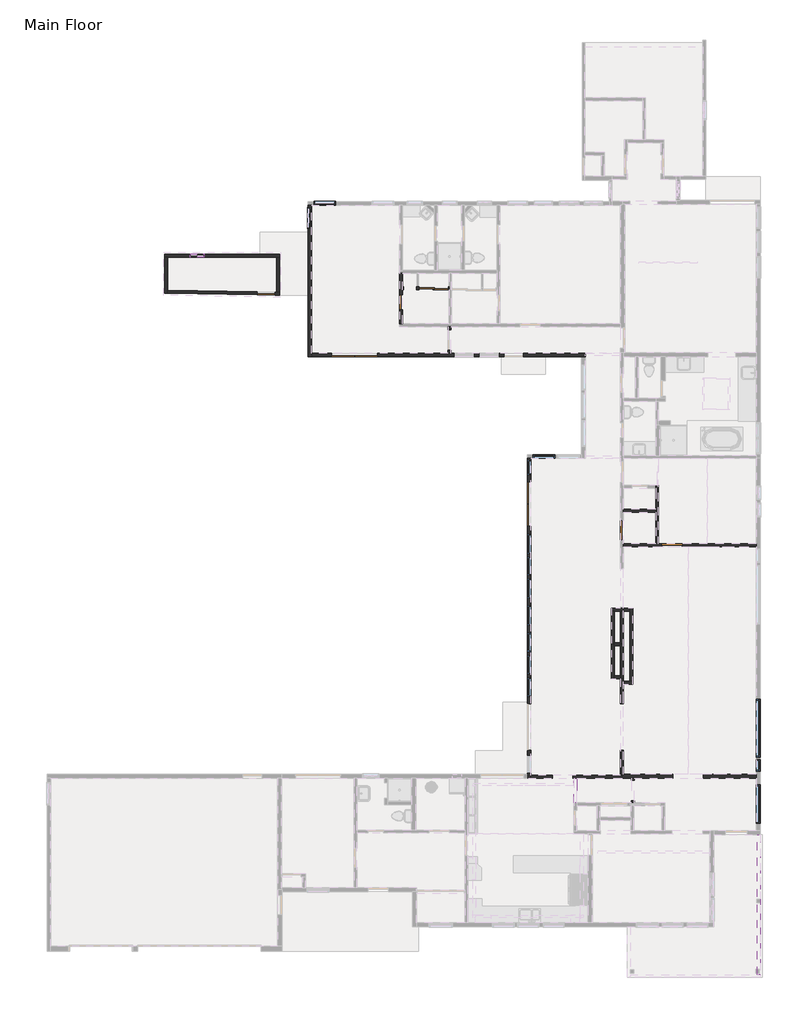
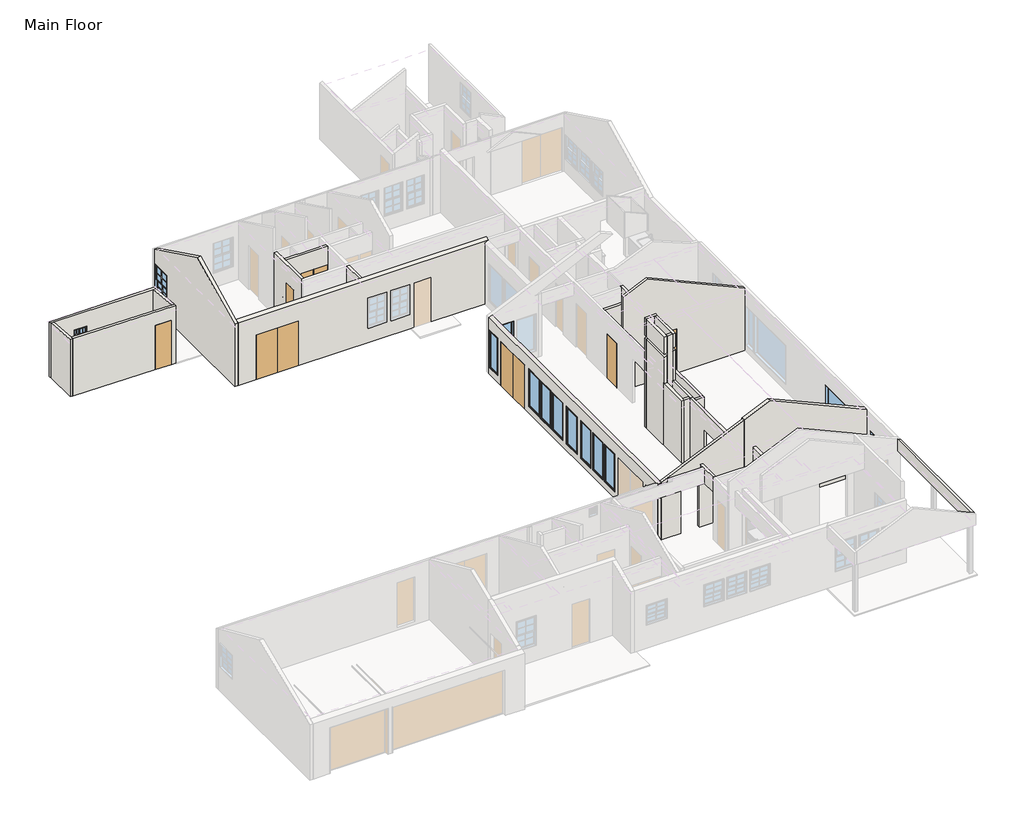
# One storey, part 3 of 7: 29 walls, 15 windows, 7 doors.
"""IFC4 building model written with IfcOpenShell, lengths in millimetres."""

from ifc_helpers import new_model, si_unit, frame, origin, origin_with_axes, place, context, project, spatial, polyline, outline, extrude, faceted_brep, transform, mapped, element, save
from components import door_b2eef15f, door_faf8bfec, door_aa45f35f, door_ba797397, door_69ba4edc, door_1b11d0cb, door_5ce24313, default_1_c23df90b, default_1_2afedee8, default_1_493c007d, default_1_76f3aa2d, default_1_f9e0bd6c, default_1_eb8dff72, default_1_3f986f1e, default_1_c4137e32, default_1_00e0ac36, default_1_38690279

model = new_model("IFC4")

# Units and contexts
model_context = context("Model", 3, world=origin())
ifc_project = project(units=[si_unit("LENGTHUNIT", "METRE", prefix="MILLI")], contexts=[model_context])

# Site, building, storey
site = spatial("IfcSite", under=ifc_project)
building = spatial("IfcBuilding", under=site)
storey = spatial("IfcBuildingStorey", under=building, Name="Main Floor", Elevation=0.0)

# Doors
placement = place(None, origin())
door_shape = door_b2eef15f(model_context)
element("IfcDoor", 1, ObjectType="Planitar - Single Door_Flush Panel : 2'-0\" x 6'-8\"", at=placement, inside=storey, context=model_context, shape_type="MappedRepresentation", body=[
    mapped(door_shape, transform((2244.5343008, 15372.7752932, 0.0), x_axis=(0.0, -1.0, 0.0), y_axis=(1.0, 0.0, 0.0), z_axis=(0.0, 0.0, 1.0))),
])
door_2_shape = door_faf8bfec(model_context)
element("IfcDoor", 2, ObjectType="Planitar - Single Door_Flush Panel : 2'-4\" x 6'-8\"", at=placement, inside=storey, context=model_context, shape_type="MappedRepresentation", body=[
    mapped(door_2_shape, transform((-3111.2605898, 15715.9165348, 0.0), x_axis=(-0.9998476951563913, 0.017452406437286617, 0.0), y_axis=(-0.017452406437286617, -0.9998476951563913, 0.0), z_axis=(0.0, 0.0, 1.0))),
])
door_3_shape = door_aa45f35f(model_context)
element("IfcDoor", 3, ObjectType="Planitar - Single Door_Flush Panel : 2'-6\" x 6'-8\"", at=placement, inside=storey, context=model_context, shape_type="MappedRepresentation", body=[
    mapped(door_3_shape, transform((10994.8343008, 6343.4467932, 0.0), x_axis=(0.0, 1.0, 0.0), y_axis=(-1.0, 0.0, 0.0), z_axis=(0.0, 0.0, 1.0))),
])
door_4_shape = door_ba797397(model_context)
element("IfcDoor", 4, ObjectType="Planitar - Single Door_Flush Panel : 2'-8\" x 6'-8\"", at=placement, inside=storey, context=model_context, shape_type="MappedRepresentation", body=[
    mapped(door_4_shape, transform((12985.1655008, 5746.1752932, 0.0), x_axis=(-1.0, 0.0, 0.0), y_axis=(0.0, -1.0, 0.0), z_axis=(0.0, 0.0, 1.0))),
])
door_5_shape = door_69ba4edc(model_context)
element("IfcDoor", 5, ObjectType="Planitar - Double Sliding Door_Flush Panel : 3'-10\" x 6'-8\"", at=placement, inside=storey, context=model_context, shape_type="MappedRepresentation", body=[
    mapped(door_5_shape, transform((3539.9343008, 15922.0502932, 0.0), x_axis=(-1.0, 0.0, 0.0), y_axis=(0.0, -1.0, 0.0), z_axis=(0.0, 0.0, 1.0))),
])
door_6_shape = door_1b11d0cb(model_context)
element("IfcDoor", 6, ObjectType="Planitar - Double Door_Flush Panel : 5'-10\" x 6'-8\"", at=placement, inside=storey, context=model_context, shape_type="MappedRepresentation", body=[
    mapped(door_6_shape, transform((7318.1843008, 7383.5361932, 0.0), x_axis=(0.0, 1.0, 0.0), y_axis=(-1.0, 0.0, 0.0), z_axis=(0.0, 0.0, 1.0))),
])
door_7_shape = door_5ce24313(model_context)
element("IfcDoor", 7, ObjectType="Planitar - Double Door_Flush Panel : 6'-0\" x 6'-8\"", at=placement, inside=storey, context=model_context, shape_type="MappedRepresentation", body=[
    mapped(door_7_shape, transform((402.6442008, 13283.6252932, 0.0), x_axis=(-1.0, 0.0, 0.0), y_axis=(0.0, -1.0, 0.0), z_axis=(0.0, 0.0, 1.0))),
])

# Walls
element("IfcWall", 8, ObjectType="Planitar - Generic 6\"", at=placement, inside=storey, context=model_context, shape_type="Brep", body=[
    faceted_brep([(-1451.1656992, 19214.5252932, 0.0), (-1451.1656992, 13207.4252932, 0.0), (-1451.1656992, 13207.4252932, 2862.721786), (-1451.1656992, 16007.7752932, 4228.5437404), (-1451.1656992, 19214.5252932, 2664.507262), (-1451.1656992, 18274.4062932, 2032.0), (-1451.1656992, 18274.4062932, 660.4), (-1451.1656992, 19138.0062932, 660.4), (-1451.1656992, 19138.0062932, 2032.0), (-1298.7656992, 19214.5252932, 0.0), (-1298.7656992, 19214.5252932, 2664.507262), (-1298.7656992, 16007.7752932, 4228.5437404), (-1298.7656992, 13359.8252932, 2937.0522325), (-1298.7656992, 13207.4252932, 2862.721786), (-1298.7656992, 13207.4252932, 0.0), (-1298.7656992, 13359.8252932, 0.0), (-1298.7656992, 18274.4062932, 2032.0), (-1298.7656992, 19138.0062932, 2032.0), (-1298.7656992, 19138.0062932, 660.4), (-1298.7656992, 18274.4062932, 660.4)], [[[0, 1, 2, 3, 4], [5, 6, 7, 8]], [[9, 10, 11, 12, 13, 14, 15], [16, 17, 18, 19]], [[1, 0, 9, 15, 14]], [[0, 4, 10, 9]], [[2, 1, 14, 13]], [[6, 5, 16, 19]], [[7, 6, 19, 18]], [[8, 7, 18, 17]], [[5, 8, 17, 16]], [[4, 3, 11, 10]], [[3, 2, 13, 12, 11]]]),
])
element("IfcWall", 9, ObjectType="Planitar - Generic 6\"", at=placement, inside=storey, context=model_context, shape_type="Brep", body=[
    faceted_brep([(-1298.7656992, 13207.4252932, 2862.721786), (-1298.7656992, 13207.4252932, 0.0), (-511.7557992, 13207.4252932, 0.0), (-511.7557992, 13207.4252932, 2032.0), (1317.0442008, 13207.4252932, 2032.0), (1317.0442008, 13207.4252932, 0.0), (6320.4028008, 13207.4252932, 0.0), (6320.4028008, 13207.4252932, 2032.0), (7082.4028008, 13207.4252932, 2032.0), (7082.4028008, 13207.4252932, 0.0), (9394.6343008, 13207.4252932, 0.0), (9547.0343008, 13207.4252932, 0.0), (9547.0343008, 13207.4252932, 2862.721786), (5143.6598008, 13207.4252932, 2032.0), (5143.6598008, 13207.4252932, 660.4), (4330.8598008, 13207.4252932, 660.4), (4330.8598008, 13207.4252932, 2032.0), (6134.1196008, 13207.4252932, 2032.0), (6134.1196008, 13207.4252932, 660.4), (5321.3196008, 13207.4252932, 660.4), (5321.3196008, 13207.4252932, 2032.0), (-1298.7656992, 13359.8252932, 0.0), (-1298.7656992, 13359.8252932, 2937.0522325), (9547.0343008, 13359.8252932, 2937.0522325), (9547.0343008, 13359.8252932, 2870.2), (9547.0343008, 13359.8252932, 2311.4), (9547.0343008, 13359.8252932, 0.0), (7082.4028008, 13359.8252932, 0.0), (7082.4028008, 13359.8252932, 2032.0), (6320.4028008, 13359.8252932, 2032.0), (6320.4028008, 13359.8252932, 0.0), (4213.0343008, 13359.8252932, 0.0), (4098.7343008, 13359.8252932, 0.0), (1317.0442008, 13359.8252932, 0.0), (1317.0442008, 13359.8252932, 2032.0), (-511.7557992, 13359.8252932, 2032.0), (-511.7557992, 13359.8252932, 0.0), (5143.6598008, 13359.8252932, 2032.0), (4330.8598008, 13359.8252932, 2032.0), (4330.8598008, 13359.8252932, 660.4), (5143.6598008, 13359.8252932, 660.4), (6134.1196008, 13359.8252932, 2032.0), (5321.3196008, 13359.8252932, 2032.0), (5321.3196008, 13359.8252932, 660.4), (6134.1196008, 13359.8252932, 660.4)], [[[0, 1, 2, 3, 4, 5, 6, 7, 8, 9, 10, 11, 12], [13, 14, 15, 16], [17, 18, 19, 20]], [[21, 22, 23, 24, 25, 26, 27, 28, 29, 30, 31, 32, 33, 34, 35, 36], [37, 38, 39, 40], [41, 42, 43, 44]], [[1, 21, 36, 2]], [[26, 11, 10, 9, 27]], [[30, 6, 5, 33, 32, 31]], [[1, 0, 22, 21]], [[28, 27, 9, 8]], [[29, 28, 8, 7]], [[30, 29, 7, 6]], [[35, 3, 2, 36]], [[3, 35, 34, 4]], [[4, 34, 33, 5]], [[14, 13, 37, 40]], [[15, 14, 40, 39]], [[16, 15, 39, 38]], [[13, 16, 38, 37]], [[18, 17, 41, 44]], [[19, 18, 44, 43]], [[20, 19, 43, 42]], [[17, 20, 42, 41]], [[11, 26, 25, 24, 23, 12]], [[0, 12, 23, 22]]]),
])
element("IfcWall", 10, ObjectType="Planitar - Generic 6\"", at=placement, inside=storey, context=model_context, shape_type="Brep", body=[
    faceted_brep([(7241.9843008, 9187.8752932, 2565.4), (7241.9843008, 9187.8752932, 0.0), (7241.9843008, 8272.5361932, 0.0), (7241.9843008, 8272.5361932, 2032.0), (7241.9843008, 6494.5361932, 2032.0), (7241.9843008, 6494.5361932, 0.0), (7241.9843008, -530.9325068, 0.0), (7241.9843008, -530.9325068, 2032.0), (7241.9843008, -2359.7325068, 2032.0), (7241.9843008, -2359.7325068, 0.0), (7241.9843008, -3327.9747068, 0.0), (7241.9843008, -3480.3747068, 0.0), (7241.9843008, -3480.3747068, 2565.4), (7241.9843008, 8521.0123932, 304.8), (7241.9843008, 9130.6123932, 304.8), (7241.9843008, 9130.6123932, 2032.0), (7241.9843008, 8521.0123932, 2032.0), (7241.9843008, 5386.4863932, 304.8), (7241.9843008, 6199.2863932, 304.8), (7241.9843008, 6199.2863932, 2032.0), (7241.9843008, 5386.4863932, 2032.0), (7241.9843008, 4539.7249932, 304.8), (7241.9843008, 5301.7249932, 304.8), (7241.9843008, 5301.7249932, 2032.0), (7241.9843008, 4539.7249932, 2032.0), (7241.9843008, 3625.3314932, 304.8), (7241.9843008, 4438.1314932, 304.8), (7241.9843008, 4438.1314932, 2032.0), (7241.9843008, 3625.3314932, 2032.0), (7241.9843008, 2555.2350932, 304.8), (7241.9843008, 3368.0350932, 304.8), (7241.9843008, 3368.0350932, 2032.0), (7241.9843008, 2555.2350932, 2032.0), (7241.9843008, 1520.2017932, 304.8), (7241.9843008, 2282.2017932, 304.8), (7241.9843008, 2282.2017932, 2032.0), (7241.9843008, 1520.2017932, 2032.0), (7241.9843008, 634.3252932, 304.8), (7241.9843008, 1396.3252932, 304.8), (7241.9843008, 1396.3252932, 2032.0), (7241.9843008, 634.3252932, 2032.0), (7241.9843008, -253.7331068, 304.8), (7241.9843008, 508.2668932, 304.8), (7241.9843008, 508.2668932, 2032.0), (7241.9843008, -253.7331068, 2032.0), (7241.9843008, -3251.9474068, 304.8), (7241.9843008, -2591.5474068, 304.8), (7241.9843008, -2591.5474068, 2032.0), (7241.9843008, -3251.9474068, 2032.0), (7394.3843008, 9187.8752932, 0.0), (7394.3843008, 9187.8752932, 2633.2528516), (7394.3843008, -3366.0747068, 2633.2528516), (7394.3843008, -3480.3747068, 2633.2528516), (7394.3843008, -3480.3747068, 0.0), (7394.3843008, -3366.0747068, 0.0), (7394.3843008, -2359.7325068, 0.0), (7394.3843008, -2359.7325068, 2032.0), (7394.3843008, -530.9325068, 2032.0), (7394.3843008, -530.9325068, 0.0), (7394.3843008, 6494.5361932, 0.0), (7394.3843008, 6494.5361932, 2032.0), (7394.3843008, 8272.5361932, 2032.0), (7394.3843008, 8272.5361932, 0.0), (7394.3843008, 8521.0123932, 304.8), (7394.3843008, 8521.0123932, 2032.0), (7394.3843008, 9130.6123932, 2032.0), (7394.3843008, 9130.6123932, 304.8), (7394.3843008, 5386.4863932, 304.8), (7394.3843008, 5386.4863932, 2032.0), (7394.3843008, 6199.2863932, 2032.0), (7394.3843008, 6199.2863932, 304.8), (7394.3843008, 4539.7249932, 304.8), (7394.3843008, 4539.7249932, 2032.0), (7394.3843008, 5301.7249932, 2032.0), (7394.3843008, 5301.7249932, 304.8), (7394.3843008, 3625.3314932, 304.8), (7394.3843008, 3625.3314932, 2032.0), (7394.3843008, 4438.1314932, 2032.0), (7394.3843008, 4438.1314932, 304.8), (7394.3843008, 2555.2350932, 304.8), (7394.3843008, 2555.2350932, 2032.0), (7394.3843008, 3368.0350932, 2032.0), (7394.3843008, 3368.0350932, 304.8), (7394.3843008, 1520.2017932, 304.8), (7394.3843008, 1520.2017932, 2032.0), (7394.3843008, 2282.2017932, 2032.0), (7394.3843008, 2282.2017932, 304.8), (7394.3843008, 634.3252932, 304.8), (7394.3843008, 634.3252932, 2032.0), (7394.3843008, 1396.3252932, 2032.0), (7394.3843008, 1396.3252932, 304.8), (7394.3843008, -253.7331068, 304.8), (7394.3843008, -253.7331068, 2032.0), (7394.3843008, 508.2668932, 2032.0), (7394.3843008, 508.2668932, 304.8), (7394.3843008, -3251.9474068, 304.8), (7394.3843008, -3251.9474068, 2032.0), (7394.3843008, -2591.5474068, 2032.0), (7394.3843008, -2591.5474068, 304.8)], [[[0, 1, 2, 3, 4, 5, 6, 7, 8, 9, 10, 11, 12], [13, 14, 15, 16], [17, 18, 19, 20], [21, 22, 23, 24], [25, 26, 27, 28], [29, 30, 31, 32], [33, 34, 35, 36], [37, 38, 39, 40], [41, 42, 43, 44], [45, 46, 47, 48]], [[49, 50, 51, 52, 53, 54, 55, 56, 57, 58, 59, 60, 61, 62], [63, 64, 65, 66], [67, 68, 69, 70], [71, 72, 73, 74], [75, 76, 77, 78], [79, 80, 81, 82], [83, 84, 85, 86], [87, 88, 89, 90], [91, 92, 93, 94], [95, 96, 97, 98]], [[1, 49, 62, 2]], [[53, 11, 10, 9, 55, 54]], [[5, 59, 58, 6]], [[1, 0, 50, 49]], [[12, 11, 53, 52]], [[61, 3, 2, 62]], [[3, 61, 60, 4]], [[4, 60, 59, 5]], [[57, 7, 6, 58]], [[7, 57, 56, 8]], [[8, 56, 55, 9]], [[64, 63, 13, 16]], [[65, 64, 16, 15]], [[66, 65, 15, 14]], [[63, 66, 14, 13]], [[68, 67, 17, 20]], [[69, 68, 20, 19]], [[70, 69, 19, 18]], [[67, 70, 18, 17]], [[72, 71, 21, 24]], [[73, 72, 24, 23]], [[74, 73, 23, 22]], [[71, 74, 22, 21]], [[76, 75, 25, 28]], [[77, 76, 28, 27]], [[78, 77, 27, 26]], [[75, 78, 26, 25]], [[80, 79, 29, 32]], [[81, 80, 32, 31]], [[82, 81, 31, 30]], [[79, 82, 30, 29]], [[84, 83, 33, 36]], [[85, 84, 36, 35]], [[86, 85, 35, 34]], [[83, 86, 34, 33]], [[88, 87, 37, 40]], [[89, 88, 40, 39]], [[90, 89, 39, 38]], [[87, 90, 38, 37]], [[92, 91, 41, 44]], [[93, 92, 44, 43]], [[94, 93, 43, 42]], [[91, 94, 42, 41]], [[96, 95, 45, 48]], [[97, 96, 48, 47]], [[98, 97, 47, 46]], [[95, 98, 46, 45]], [[0, 12, 52, 51, 50]]]),
])
element("IfcWall", 11, ObjectType="Planitar - Generic 4 1/2\"", at=placement, inside=storey, context=model_context, shape_type="SweptSolid", body=[
    extrude(outline(polyline([(-4366.6311068, 2032.0), (-4366.6311068, 0.0), (-4451.9247068, 0.0), (-4451.9247068, 2870.2), (-3480.3747068, 2870.2), (-3480.3747068, 0.0), (-3553.8311068, 0.0), (-3553.8311068, 2032.0), (-4366.6311068, 2032.0)])), frame((11375.8343008, 0.0, 0.0), z_axis=(1.0, 0.0, 0.0), x_axis=(0.0, 1.0, 0.0)), (0.0, 0.0, 1.0), 114.3),
])
element("IfcWall", 12, ObjectType="Planitar - Generic 6 1/2\"", at=placement, inside=storey, context=model_context, shape_type="Brep", body=[
    faceted_brep([(16316.1343008, -3315.2747068, 0.0), (14221.9957008, -3315.2747068, 0.0), (14221.9957008, -3315.2747068, 2032.0), (13002.7957008, -3315.2747068, 2032.0), (13002.7957008, -3315.2747068, 0.0), (11051.9843008, -3315.2747068, 0.0), (10994.8343008, -3315.2747068, 0.0), (10994.8343008, -3315.2747068, 2870.2), (10994.8343008, -3315.2747068, 4236.2764717), (12115.9189869, -3315.2747068, 4735.4155326), (16316.1343008, -3315.2747068, 2865.3591904), (14221.9957008, -3480.3747068, 2032.0), (14221.9957008, -3480.3747068, 0.0), (16316.1343008, -3480.3747068, 0.0), (16316.1343008, -3480.3747068, 2865.3591904), (12115.9189869, -3480.3747068, 4735.4155326), (10994.8343008, -3480.3747068, 4236.2764717), (10994.8343008, -3480.3747068, 0.0), (11375.8343008, -3480.3747068, 0.0), (11490.1343008, -3480.3747068, 0.0), (13002.7957008, -3480.3747068, 0.0), (13002.7957008, -3480.3747068, 2032.0), (10994.8343008, -3366.0747068, 0.0), (10994.8343008, -3366.0747068, 4236.2764717)], [[[0, 1, 2, 3, 4, 5, 6, 7, 8, 9, 10]], [[11, 12, 13, 14, 15, 16, 17, 18, 19, 20, 21]], [[13, 12, 1, 0]], [[20, 19, 18, 17, 22, 6, 5, 4]], [[8, 7, 6, 22, 17, 16, 23]], [[0, 10, 14, 13]], [[4, 3, 21, 20]], [[2, 1, 12, 11]], [[3, 2, 11, 21]], [[10, 9, 15, 14]], [[9, 8, 23, 16, 15]]]),
])
element("IfcWall", 13, ObjectType="Planitar - Generic 4 1/2\"", at=placement, inside=storey, context=model_context, shape_type="Brep", body=[
    faceted_brep([(9060.1610008, -3480.3747068, 2032.0), (9060.1610008, -3480.3747068, 0.0), (10994.8343008, -3480.3747068, 0.0), (10994.8343008, -3480.3747068, 4236.2764717), (7394.3843008, -3480.3747068, 2633.2528516), (7394.3843008, -3480.3747068, 0.0), (8247.3610008, -3480.3747068, 0.0), (8247.3610008, -3480.3747068, 2032.0), (10994.8343008, -3366.0747068, 0.0), (10937.6843008, -3366.0747068, 0.0), (9060.1610008, -3366.0747068, 0.0), (9060.1610008, -3366.0747068, 2032.0), (8247.3610008, -3366.0747068, 2032.0), (8247.3610008, -3366.0747068, 0.0), (7394.3843008, -3366.0747068, 0.0), (7394.3843008, -3366.0747068, 2633.2528516), (10994.8343008, -3366.0747068, 4236.2764717), (10994.8343008, -3366.0747068, 2870.2)], [[[0, 1, 2, 3, 4, 5, 6, 7]], [[8, 9, 10, 11, 12, 13, 14, 15, 16, 17]], [[6, 5, 14, 13]], [[2, 1, 10, 9, 8]], [[3, 2, 8, 17, 16]], [[5, 4, 15, 14]], [[13, 12, 7, 6]], [[11, 10, 1, 0]], [[12, 11, 0, 7]], [[4, 3, 16, 15]]]),
])
element("IfcWall", 14, ObjectType="Planitar - Generic 4 1/2\"", at=placement, inside=storey, context=model_context, shape_type="Brep", body=[
    faceted_brep([(11051.9843008, 5689.0252932, 0.0), (12578.7655008, 5689.0252932, 0.0), (12578.7655008, 5689.0252932, 2032.0), (13391.5655008, 5689.0252932, 2032.0), (13391.5655008, 5689.0252932, 0.0), (16316.1343008, 5689.0252932, 0.0), (16316.1343008, 5689.0252932, 2865.3591904), (12115.9189869, 5689.0252932, 4735.4155326), (11051.9843008, 5689.0252932, 4261.721291), (12578.7655008, 5803.3252932, 2032.0), (12578.7655008, 5803.3252932, 0.0), (12442.6343008, 5803.3252932, 0.0), (12328.3343008, 5803.3252932, 0.0), (11051.9843008, 5803.3252932, 0.0), (11051.9843008, 5803.3252932, 4261.721291), (12115.9189869, 5803.3252932, 4735.4155326), (16316.1343008, 5803.3252932, 2865.3591904), (16316.1343008, 5803.3252932, 0.0), (13391.5655008, 5803.3252932, 0.0), (13391.5655008, 5803.3252932, 2032.0)], [[[0, 1, 2, 3, 4, 5, 6, 7, 8]], [[9, 10, 11, 12, 13, 14, 15, 16, 17, 18, 19]], [[18, 17, 5, 4]], [[13, 12, 11, 10, 1, 0]], [[6, 5, 17, 16]], [[0, 8, 14, 13]], [[2, 1, 10, 9]], [[3, 2, 9, 19]], [[4, 3, 19, 18]], [[8, 7, 15, 14]], [[7, 6, 16, 15]]]),
])
element("IfcWall", 15, ObjectType="Planitar - Generic 4 1/2\"", at=placement, inside=storey, context=model_context, shape_type="Brep", body=[
    faceted_brep([(12442.6343008, 5803.3252932, 0.0), (12442.6343008, 8127.4252932, 0.0), (12442.6343008, 8127.4252932, 2133.6), (12442.6343008, 8127.4252932, 2870.2), (12442.6343008, 5803.3252932, 2870.2), (12328.3343008, 5803.3252932, 0.0), (12328.3343008, 5803.3252932, 2870.2), (12328.3343008, 7060.6252932, 2870.2), (12328.3343008, 7174.9252932, 2870.2), (12328.3343008, 8013.1252932, 2870.2), (12328.3343008, 8127.4252932, 2870.2), (12328.3343008, 8127.4252932, 0.0), (12328.3343008, 8013.1252932, 0.0), (12328.3343008, 7174.9252932, 0.0), (12328.3343008, 7060.6252932, 0.0), (12391.8343008, 8127.4252932, 2870.2)], [[[0, 1, 2, 3, 4]], [[5, 6, 7, 8, 9, 10, 11, 12, 13, 14]], [[1, 0, 5, 14, 13, 12, 11]], [[4, 3, 15, 10, 9, 8, 7, 6]], [[0, 4, 6, 5]], [[1, 11, 10, 15, 3, 2]]]),
])
element("IfcWall", 16, ObjectType="Planitar - Generic 4 1/2\"", at=placement, inside=storey, context=model_context, shape_type="SweptSolid", body=[
    extrude(outline(polyline([(11051.9843008, 7174.9252932), (12328.3343008, 7174.9252932), (12328.3343008, 7060.6252932), (11051.9843008, 7060.6252932), (11051.9843008, 7174.9252932)])), origin_with_axes(), (0.0, 0.0, 1.0), 2870.2),
])
element("IfcWall", 17, ObjectType="Planitar - Generic 4 1/2\"", at=placement, inside=storey, context=model_context, shape_type="SweptSolid", body=[
    extrude(outline(polyline([(14401.2252932, 0.0), (14286.9110932, 0.0), (14286.9110932, 2032.0), (13474.1110932, 2032.0), (13474.1110932, 0.0), (13359.8252932, 0.0), (13359.8252932, 2870.2), (14401.2252932, 2870.2), (14401.2252932, 0.0)])), frame((4098.7343008, 0.0, 0.0), z_axis=(1.0, 0.0, 0.0), x_axis=(0.0, 1.0, 0.0)), (0.0, 0.0, 1.0), 114.3),
])
element("IfcWall", 18, ObjectType="Planitar - Generic 4 1/2\"", at=placement, inside=storey, context=model_context, shape_type="Brep", body=[
    faceted_brep([(2187.3843008, 15067.9752932, 2032.0), (2187.3843008, 15067.9752932, 0.0), (2187.3843008, 14515.5252932, 0.0), (2187.3843008, 14515.5252932, 2870.2), (2187.3843008, 16528.4752932, 2870.2), (2187.3843008, 16528.4752932, 0.0), (2187.3843008, 15677.5752932, 0.0), (2187.3843008, 15677.5752932, 2032.0), (2301.6843008, 14515.5252932, 0.0), (2301.6843008, 15067.9752932, 0.0), (2301.6843008, 15067.9752932, 2032.0), (2301.6843008, 15677.5752932, 2032.0), (2301.6843008, 15677.5752932, 0.0), (2301.6843008, 15868.0752932, 0.0), (2301.6843008, 15982.3752932, 0.0), (2301.6843008, 16528.4752932, 0.0), (2301.6843008, 16528.4752932, 2870.2), (2301.6843008, 15982.3752932, 2870.2), (2301.6843008, 15868.0752932, 2870.2), (2301.6843008, 14515.5252932, 2870.2)], [[[0, 1, 2, 3, 4, 5, 6, 7]], [[8, 9, 10, 11, 12, 13, 14, 15, 16, 17, 18, 19]], [[6, 5, 15, 14, 13, 12]], [[2, 1, 9, 8]], [[4, 3, 19, 18, 17, 16]], [[3, 2, 8, 19]], [[5, 4, 16, 15]], [[10, 9, 1, 0]], [[11, 10, 0, 7]], [[12, 11, 7, 6]]]),
])
element("IfcWall", 19, ObjectType="Planitar - Generic 4 1/2\"", at=placement, inside=storey, context=model_context, shape_type="Brep", body=[
    faceted_brep([(-7121.7156992, 17157.1252932, 0.0), (-7007.4156992, 17157.1252932, 0.0), (-2695.7656992, 17157.1252932, 0.0), (-2581.4656992, 17157.1252932, 0.0), (-2581.4656992, 17157.1252932, 2505.8665904), (-2695.7656992, 17157.1252932, 2505.8665904), (-7007.4156992, 17157.1252932, 2505.8665904), (-7121.7156992, 17157.1252932, 2505.8665904), (-5565.958877, 17157.1252932, 1828.8), (-5565.958877, 17157.1252932, 1219.2), (-6124.758877, 17157.1252932, 1219.2), (-6124.758877, 17157.1252932, 1828.8), (-7121.7156992, 17271.4252932, 0.0), (-7121.7156992, 17271.4252932, 2495.8666362), (-2581.4656992, 17271.4252932, 2495.8666362), (-2581.4656992, 17271.4252932, 0.0), (-5565.958877, 17271.4252932, 1828.8), (-6124.758877, 17271.4252932, 1828.8), (-6124.758877, 17271.4252932, 1219.2), (-5565.958877, 17271.4252932, 1219.2)], [[[0, 1, 2, 3, 4, 5, 6, 7], [8, 9, 10, 11]], [[12, 13, 14, 15], [16, 17, 18, 19]], [[3, 2, 1, 0, 12, 15]], [[0, 7, 13, 12]], [[4, 3, 15, 14]], [[9, 8, 16, 19]], [[10, 9, 19, 18]], [[11, 10, 18, 17]], [[8, 11, 17, 16]], [[7, 6, 5, 4, 14, 13]]]),
])
element("IfcWall", 20, ObjectType="Planitar - Generic 4 1/2\"", at=placement, inside=storey, context=model_context, shape_type="Brep", body=[
    faceted_brep([(-7121.7156992, 17157.1252932, 0.0), (-7121.7156992, 15728.7605836, 0.0), (-7121.7156992, 15728.7605836, 2630.8323099), (-7121.7156992, 17157.1252932, 2505.8665904), (-7007.4156992, 17157.1252932, 0.0), (-7007.4156992, 17157.1252932, 2505.8665904), (-7007.4156992, 15841.0828807, 2621.0053822), (-7007.4156992, 15726.7654697, 2631.0068597), (-7007.4156992, 15726.7654697, 0.0), (-7007.4156992, 15841.0828807, 0.0)], [[[0, 1, 2, 3]], [[4, 5, 6, 7, 8, 9]], [[1, 0, 4, 9, 8]], [[0, 3, 5, 4]], [[2, 1, 8, 7]], [[3, 2, 7, 6, 5]]]),
])
element("IfcWall", 21, ObjectType="Planitar - Generic 4 1/2\"", at=placement, inside=storey, context=model_context, shape_type="Brep", body=[
    faceted_brep([(-7007.4156992, 15726.7654697, 0.0), (-3467.8038352, 15664.9813147, 0.0), (-3467.8038352, 15664.9813147, 2032.0), (-2756.7121544, 15652.5691633, 2032.0), (-2756.7121544, 15652.5691633, 0.0), (-2581.4656992, 15649.510225, 0.0), (-2581.4656992, 15649.510225, 2637.7658178), (-7007.4156992, 15726.7654697, 2631.0068597), (-3465.8090252, 15779.2639063, 2032.0), (-3465.8090252, 15779.2639063, 0.0), (-7007.4156992, 15841.0828807, 0.0), (-7007.4156992, 15841.0828807, 2621.0053822), (-2695.7656992, 15765.82275, 2627.5897905), (-2581.4656992, 15763.8276361, 2627.7643403), (-2581.4656992, 15763.8276361, 0.0), (-2695.7656992, 15765.82275, 0.0), (-2754.7173444, 15766.8517548, 0.0), (-2754.7173444, 15766.8517548, 2032.0)], [[[0, 1, 2, 3, 4, 5, 6, 7]], [[8, 9, 10, 11, 12, 13, 14, 15, 16, 17]], [[10, 9, 1, 0]], [[16, 15, 14, 5, 4]], [[6, 5, 14, 13]], [[0, 7, 11, 10]], [[2, 1, 9, 8]], [[3, 2, 8, 17]], [[4, 3, 17, 16]], [[7, 6, 13, 12, 11]]]),
])
element("IfcWall", 22, ObjectType="Planitar - Generic 4 1/2\"", at=placement, inside=storey, context=model_context, shape_type="Brep", body=[
    faceted_brep([(-2581.4656992, 15763.8276361, 0.0), (-2581.4656992, 17157.1252932, 0.0), (-2581.4656992, 17157.1252932, 2505.8665904), (-2581.4656992, 15763.8276361, 2627.7643403), (-2695.7656992, 15765.82275, 0.0), (-2695.7656992, 15765.82275, 2627.5897905), (-2695.7656992, 17157.1252932, 2505.8665904), (-2695.7656992, 17157.1252932, 0.0)], [[[0, 1, 2, 3]], [[4, 5, 6, 7]], [[1, 0, 4, 7]], [[0, 3, 5, 4]], [[2, 1, 7, 6]], [[3, 2, 6, 5]]]),
])
element("IfcWall", 23, ObjectType="Planitar - Generic 4 1/2\"", at=placement, inside=storey, context=model_context, shape_type="Brep", body=[
    faceted_brep([(11051.9843008, 3250.6252932, 0.0), (10575.7343008, 3250.6252932, 0.0), (10575.7343008, 3250.6252932, 4049.6811296), (11051.9843008, 3250.6252932, 4261.721291), (11051.9843008, 3250.6252932, 2870.2), (10575.7343008, 3136.3252932, 0.0), (10690.0343008, 3136.3252932, 0.0), (10937.6843008, 3136.3252932, 0.0), (11051.9843008, 3136.3252932, 0.0), (11051.9843008, 3136.3252932, 2870.2), (11051.9843008, 3136.3252932, 4261.721291), (10937.6843008, 3136.3252932, 4210.8316523), (10690.0343008, 3136.3252932, 4100.5707684), (10575.7343008, 3136.3252932, 4049.6811296)], [[[0, 1, 2, 3, 4]], [[5, 6, 7, 8, 9, 10, 11, 12, 13]], [[1, 0, 8, 7, 6, 5]], [[1, 5, 13, 2]], [[8, 0, 4, 3, 10, 9]], [[3, 2, 13, 12, 11, 10]]]),
    faceted_brep([(10575.7343008, 3250.6252932, 5003.8), (11051.9843008, 3250.6252932, 5003.8), (11051.9843008, 3250.6252932, 4400.7400984), (10575.7343008, 3250.6252932, 4188.699937), (11051.9843008, 3136.3252932, 5003.8), (10937.6843008, 3136.3252932, 5003.8), (10690.0343008, 3136.3252932, 5003.8), (10575.7343008, 3136.3252932, 5003.8), (10575.7343008, 3136.3252932, 4188.699937), (10690.0343008, 3136.3252932, 4239.5895757), (10937.6843008, 3136.3252932, 4349.8504597), (11051.9843008, 3136.3252932, 4400.7400984)], [[[0, 1, 2, 3]], [[4, 5, 6, 7, 8, 9, 10, 11]], [[1, 0, 7, 6, 5, 4]], [[7, 0, 3, 8]], [[1, 4, 11, 2]], [[3, 2, 11, 10, 9, 8]]]),
])
element("IfcWall", 24, ObjectType="Planitar - Generic 4 1/2\"", at=placement, inside=storey, context=model_context, shape_type="Brep", body=[
    faceted_brep([(10575.7343008, 3136.3252932, 0.0), (10575.7343008, 1834.5752932, 0.0), (10575.7343008, 1834.5752932, 2870.2), (10575.7343008, 1777.4252932, 2870.2), (10575.7343008, 1777.4252932, 4049.6811296), (10575.7343008, 3136.3252932, 4049.6811296), (10690.0343008, 1834.5752932, 0.0), (10690.0343008, 1891.7252932, 0.0), (10690.0343008, 3136.3252932, 0.0), (10690.0343008, 3136.3252932, 4100.5707684), (10690.0343008, 1777.4252932, 4100.5707684), (10690.0343008, 1777.4252932, 2870.2), (10690.0343008, 1834.5752932, 2870.2)], [[[0, 1, 2, 3, 4, 5]], [[6, 7, 8, 9, 10, 11, 12]], [[1, 0, 8, 7, 6]], [[8, 0, 5, 9]], [[1, 6, 12, 2]], [[3, 2, 12, 11]], [[3, 11, 10, 4]], [[5, 4, 10, 9]]]),
    faceted_brep([(10575.7343008, 1777.4252932, 5003.8), (10575.7343008, 3136.3252932, 5003.8), (10575.7343008, 3136.3252932, 4188.699937), (10575.7343008, 1777.4252932, 4188.699937), (10690.0343008, 3136.3252932, 5003.8), (10690.0343008, 1891.7252932, 5003.8), (10690.0343008, 1777.4252932, 5003.8), (10690.0343008, 1777.4252932, 4239.5895757), (10690.0343008, 3136.3252932, 4239.5895757)], [[[0, 1, 2, 3]], [[4, 5, 6, 7, 8]], [[1, 0, 6, 5, 4]], [[1, 4, 8, 2]], [[6, 0, 3, 7]], [[3, 2, 8, 7]]]),
])
element("IfcWall", 25, ObjectType="Planitar - Generic 4 1/2\"", at=placement, inside=storey, context=model_context, shape_type="SweptSolid", body=[
    extrude(outline(polyline([(10937.6843008, 469.3252932), (10690.0343008, 469.3252932), (10690.0343008, 583.6252932), (10937.6843008, 583.6252932), (10937.6843008, 469.3252932)])), origin_with_axes(), (0.0, 0.0, 1.0), 2870.2),
])
element("IfcWall", 26, ObjectType="Planitar - Generic 4 1/2\"", at=placement, inside=storey, context=model_context, shape_type="Brep", body=[
    faceted_brep([(11051.9843008, 247.0752932, 0.0), (11426.6343008, 247.0752932, 0.0), (11426.6343008, 247.0752932, 2870.2), (11051.9843008, 247.0752932, 2870.2), (11051.9843008, 361.3752932, 0.0), (11051.9843008, 361.3752932, 2870.2), (11312.3343008, 361.3752932, 2870.2), (11426.6343008, 361.3752932, 2870.2), (11426.6343008, 361.3752932, 0.0), (11312.3343008, 361.3752932, 0.0)], [[[0, 1, 2, 3]], [[4, 5, 6, 7, 8, 9]], [[1, 0, 4, 9, 8]], [[3, 2, 7, 6, 5]], [[0, 3, 5, 4]], [[2, 1, 8, 7]]]),
])
element("IfcWall", 27, ObjectType="Planitar - Generic 4 1/2\"", at=placement, inside=storey, context=model_context, shape_type="Brep", body=[
    faceted_brep([(11426.6343008, 361.3752932, 0.0), (11426.6343008, 3250.6252932, 0.0), (11426.6343008, 3250.6252932, 2870.2), (11426.6343008, 361.3752932, 2870.2), (11312.3343008, 361.3752932, 0.0), (11312.3343008, 361.3752932, 2870.2), (11312.3343008, 3136.3252932, 2870.2), (11312.3343008, 3250.6252932, 2870.2), (11312.3343008, 3250.6252932, 0.0), (11312.3343008, 3136.3252932, 0.0)], [[[0, 1, 2, 3]], [[4, 5, 6, 7, 8, 9]], [[1, 0, 4, 9, 8]], [[3, 2, 7, 6, 5]], [[0, 3, 5, 4]], [[2, 1, 8, 7]]]),
])
element("IfcWall", 28, ObjectType="Planitar - Generic 4 1/2\"", at=placement, inside=storey, context=model_context, shape_type="SweptSolid", body=[
    extrude(outline(polyline([(11051.9843008, 3250.6252932), (11312.3343008, 3250.6252932), (11312.3343008, 3136.3252932), (11051.9843008, 3136.3252932), (11051.9843008, 3250.6252932)])), origin_with_axes(), (0.0, 0.0, 1.0), 2870.2),
])
element("IfcWall", 29, ObjectType="Planitar - Generic 4 1/2\"", at=placement, inside=storey, context=model_context, shape_type="Brep", body=[
    faceted_brep([(9096.1843008, -3480.3747068, 2184.4), (9096.1843008, -3670.8747068, 2184.4), (9096.1843008, -3785.1747068, 2184.4), (9096.1843008, -4451.9247068, 2184.4), (9096.1843008, -4451.9247068, 2870.2), (9096.1843008, -3785.1747068, 2870.2), (9096.1843008, -3670.8747068, 2870.2), (9096.1843008, -3480.3747068, 2870.2), (9210.4843008, -3480.3747068, 2184.4), (9210.4843008, -3480.3747068, 2870.2), (9210.4843008, -4451.9247068, 2870.2), (9210.4843008, -4451.9247068, 2184.4)], [[[0, 1, 2, 3, 4, 5, 6, 7]], [[8, 9, 10, 11]], [[3, 2, 1, 0, 8, 11]], [[7, 6, 5, 4, 10, 9]], [[4, 3, 11, 10]], [[0, 7, 9, 8]]]),
])
element("IfcWall", 30, ObjectType="Planitar - Generic 4 1/2\"", at=placement, inside=storey, context=model_context, shape_type="SweptSolid", body=[
    extrude(outline(polyline([(2286.0, 16468.5343008), (2797.5063387, 16468.5343008), (2848.3959775, 16354.2343008), (2286.0, 16354.2343008), (2286.0, 16468.5343008)])), frame((0.0, -11252.7747068, 0.0), z_axis=(0.0, 1.0, 0.0), x_axis=(0.0, 0.0, 1.0)), (0.0, 0.0, 1.0), 5543.55),
])
element("IfcWall", 31, ObjectType="Planitar - Generic 4 1/2\"", at=placement, inside=storey, context=model_context, shape_type="Brep", body=[
    faceted_brep([(4130.4843008, 15868.0752932, 2870.2), (2301.6843008, 15868.0752932, 2870.2), (2301.6843008, 15868.0752932, 0.0), (2346.1343008, 15868.0752932, 0.0), (2346.1343008, 15868.0752932, 2032.0), (2854.1343008, 15868.0752932, 2032.0), (2854.1343008, 15868.0752932, 0.0), (2955.7343008, 15868.0752932, 0.0), (2955.7343008, 15868.0752932, 2032.0), (4124.1343008, 15868.0752932, 2032.0), (4124.1343008, 15868.0752932, 0.0), (4130.4843008, 15868.0752932, 0.0), (2301.6843008, 15982.3752932, 2870.2), (2879.5343008, 15982.3752932, 2870.2), (2930.3343008, 15982.3752932, 2870.2), (4130.4843008, 15982.3752932, 2870.2), (4130.4843008, 15982.3752932, 0.0), (4124.1343008, 15982.3752932, 0.0), (4124.1343008, 15982.3752932, 2032.0), (2955.7343008, 15982.3752932, 2032.0), (2955.7343008, 15982.3752932, 0.0), (2930.3343008, 15982.3752932, 0.0), (2879.5343008, 15982.3752932, 0.0), (2854.1343008, 15982.3752932, 0.0), (2854.1343008, 15982.3752932, 2032.0), (2346.1343008, 15982.3752932, 2032.0), (2346.1343008, 15982.3752932, 0.0), (2301.6843008, 15982.3752932, 0.0)], [[[0, 1, 2, 3, 4, 5, 6, 7, 8, 9, 10, 11]], [[12, 13, 14, 15, 16, 17, 18, 19, 20, 21, 22, 23, 24, 25, 26, 27]], [[2, 27, 26, 3]], [[16, 11, 10, 17]], [[20, 7, 6, 23, 22, 21]], [[1, 0, 15, 14, 13, 12]], [[0, 11, 16, 15]], [[2, 1, 12, 27]], [[19, 8, 7, 20]], [[8, 19, 18, 9]], [[9, 18, 17, 10]], [[5, 24, 23, 6]], [[24, 5, 4, 25]], [[25, 4, 3, 26]]]),
])
element("IfcWall", 32, ObjectType="Planitar - Generic 4 1/2\"", at=placement, inside=storey, context=model_context, shape_type="Brep", body=[
    faceted_brep([(11051.9843008, -537.1497068, 2032.0), (11051.9843008, -537.1497068, 0.0), (11051.9843008, 247.0752932, 0.0), (11051.9843008, 361.3752932, 0.0), (11051.9843008, 469.3252932, 0.0), (11051.9843008, 469.3252932, 2870.2), (11051.9843008, 361.3752932, 2870.2), (11051.9843008, 247.0752932, 2870.2), (11051.9843008, -3315.2747068, 2870.2), (11051.9843008, -3315.2747068, 0.0), (11051.9843008, -2365.9497068, 0.0), (11051.9843008, -2365.9497068, 2032.0), (10937.6843008, 469.3252932, 0.0), (10937.6843008, -537.1497068, 0.0), (10937.6843008, -537.1497068, 2032.0), (10937.6843008, -2365.9497068, 2032.0), (10937.6843008, -2365.9497068, 0.0), (10937.6843008, -3366.0747068, 0.0), (10937.6843008, -3366.0747068, 2870.2), (10937.6843008, 469.3252932, 2870.2), (10994.8343008, -3315.2747068, 0.0), (10994.8343008, -3366.0747068, 0.0), (10994.8343008, -3366.0747068, 2870.2), (10994.8343008, -3315.2747068, 2870.2)], [[[0, 1, 2, 3, 4, 5, 6, 7, 8, 9, 10, 11]], [[12, 13, 14, 15, 16, 17, 18, 19]], [[10, 9, 20, 21, 17, 16]], [[4, 3, 2, 1, 13, 12]], [[8, 7, 6, 5, 19, 18, 22, 23]], [[15, 14, 0, 11]], [[14, 13, 1, 0]], [[16, 15, 11, 10]], [[9, 8, 23, 20]], [[23, 22, 21, 20]], [[22, 18, 17, 21]], [[5, 4, 12, 19]]]),
])
element("IfcWall", 33, ObjectType="Planitar - Generic 4 1/2\"", at=placement, inside=storey, context=model_context, shape_type="Brep", body=[
    faceted_brep([(11051.9843008, 469.3252932, 0.0), (11051.9843008, 1834.5752932, 0.0), (11051.9843008, 1834.5752932, 2870.2), (11051.9843008, 1777.4252932, 2870.2), (11051.9843008, 469.3252932, 2870.2), (10937.6843008, 469.3252932, 0.0), (10937.6843008, 469.3252932, 2870.2), (10937.6843008, 583.6252932, 2870.2), (10937.6843008, 1777.4252932, 2870.2), (10937.6843008, 1834.5752932, 2870.2), (10937.6843008, 1834.5752932, 0.0), (10937.6843008, 1777.4252932, 0.0), (10937.6843008, 583.6252932, 0.0)], [[[0, 1, 2, 3, 4]], [[5, 6, 7, 8, 9, 10, 11, 12]], [[1, 0, 5, 12, 11, 10]], [[2, 1, 10, 9]], [[4, 3, 2, 9, 8, 7, 6]], [[0, 4, 6, 5]]]),
])
element("IfcWall", 34, ObjectType="Planitar - Generic 4 1/2\"", at=placement, inside=storey, context=model_context, shape_type="Brep", body=[
    faceted_brep([(10690.0343008, 1777.4252932, 5003.8), (10690.0343008, 1777.4252932, 2870.2), (10690.0343008, 1777.4252932, 0.0), (10937.6843008, 1777.4252932, 0.0), (10937.6843008, 1777.4252932, 2870.2), (10937.6843008, 1777.4252932, 5003.8), (10690.0343008, 1891.7252932, 0.0), (10690.0343008, 1891.7252932, 5003.8), (10937.6843008, 1891.7252932, 5003.8), (10937.6843008, 1891.7252932, 0.0), (10690.0343008, 1834.5752932, 0.0), (10937.6843008, 1834.5752932, 0.0)], [[[0, 1, 2, 3, 4, 5]], [[6, 7, 8, 9]], [[3, 2, 10, 6, 9, 11]], [[0, 5, 8, 7]], [[3, 11, 9, 8, 5, 4]], [[0, 7, 6, 10, 2, 1]]]),
])
element("IfcWall", 35, ObjectType="Planitar - Generic 4 1/2\"", at=placement, inside=storey, context=model_context, shape_type="Brep", body=[
    faceted_brep([(11051.9843008, 1834.5752932, 0.0), (11051.9843008, 3136.3252932, 0.0), (11051.9843008, 3136.3252932, 4261.721291), (11051.9843008, 1777.4252932, 4261.721291), (11051.9843008, 1777.4252932, 2870.2), (11051.9843008, 1834.5752932, 2870.2), (10937.6843008, 3136.3252932, 0.0), (10937.6843008, 1891.7252932, 0.0), (10937.6843008, 1834.5752932, 0.0), (10937.6843008, 1834.5752932, 2870.2), (10937.6843008, 1777.4252932, 2870.2), (10937.6843008, 1777.4252932, 4210.8316523), (10937.6843008, 3136.3252932, 4210.8316523)], [[[0, 1, 2, 3, 4, 5]], [[6, 7, 8, 9, 10, 11, 12]], [[1, 0, 8, 7, 6]], [[1, 6, 12, 2]], [[8, 0, 5, 9]], [[10, 9, 5, 4]], [[10, 4, 3, 11]], [[3, 2, 12, 11]]]),
    faceted_brep([(11051.9843008, 3136.3252932, 5003.8), (11051.9843008, 1777.4252932, 5003.8), (11051.9843008, 1777.4252932, 4400.7400984), (11051.9843008, 3136.3252932, 4400.7400984), (10937.6843008, 1777.4252932, 5003.8), (10937.6843008, 1891.7252932, 5003.8), (10937.6843008, 3136.3252932, 5003.8), (10937.6843008, 3136.3252932, 4349.8504597), (10937.6843008, 1777.4252932, 4349.8504597)], [[[0, 1, 2, 3]], [[4, 5, 6, 7, 8]], [[1, 0, 6, 5, 4]], [[6, 0, 3, 7]], [[1, 4, 8, 2]], [[3, 2, 8, 7]]]),
])
element("IfcWall", 36, ObjectType="Planitar - Generic 4 1/2\"", at=placement, inside=storey, context=model_context, shape_type="Brep", body=[
    faceted_brep([(10575.7343008, 1834.5752932, 0.0), (10575.7343008, 469.3252932, 0.0), (10575.7343008, 469.3252932, 2870.2), (10575.7343008, 1777.4252932, 2870.2), (10575.7343008, 1834.5752932, 2870.2), (10690.0343008, 1834.5752932, 0.0), (10690.0343008, 1834.5752932, 2870.2), (10690.0343008, 1777.4252932, 2870.2), (10690.0343008, 583.6252932, 2870.2), (10690.0343008, 469.3252932, 2870.2), (10690.0343008, 469.3252932, 0.0), (10690.0343008, 583.6252932, 0.0), (10690.0343008, 1777.4252932, 0.0)], [[[0, 1, 2, 3, 4]], [[5, 6, 7, 8, 9, 10, 11, 12]], [[1, 0, 5, 12, 11, 10]], [[4, 3, 2, 9, 8, 7, 6]], [[0, 4, 6, 5]], [[2, 1, 10, 9]]]),
])

# Windows
default_1_shape = default_1_c23df90b(model_context)
element("IfcWindow", 37, ObjectType="Planitar-Double-Hung-Single : Default 1", at=placement, inside=storey, context=model_context, shape_type="MappedRepresentation", body=[
    mapped(default_1_shape, transform((-780.9043992, 19284.3752932, -254.0), x_axis=(1.0, 0.0, 0.0), y_axis=(0.0, 1.0, 0.0), z_axis=(0.0, 0.0, 1.0))),
])
default_1_2_shape = default_1_2afedee8(model_context)
element("IfcWindow", 38, ObjectType="Planitar-Double-Hung-Single : Default 1", at=placement, inside=storey, context=model_context, shape_type="MappedRepresentation", body=[
    mapped(default_1_2_shape, transform((-1374.9656992, 18706.2062932, -254.0), x_axis=(0.0, 1.0, 0.0), y_axis=(-1.0, 0.0, 0.0), z_axis=(0.0, 0.0, 1.0))),
])
default_1_3_shape = default_1_493c007d(model_context)
element("IfcWindow", 39, ObjectType="Planitar-Sliding-Double : Default 1", at=placement, inside=storey, context=model_context, shape_type="MappedRepresentation", body=[
    mapped(default_1_3_shape, transform((-5845.358877, 17218.0852932, 304.8), x_axis=(1.0, 0.0, 0.0), y_axis=(0.0, 1.0, 0.0), z_axis=(0.0, 0.0, 1.0))),
])
default_1_4_shape = default_1_76f3aa2d(model_context)
element("IfcWindow", 40, ObjectType="Planitar-Fixed : Default 1", at=placement, inside=storey, context=model_context, shape_type="MappedRepresentation", body=[
    mapped(default_1_4_shape, transform((7331.1843008, 4920.7249932, -609.6), x_axis=(0.0, 1.0, 0.0), y_axis=(-1.0, 0.0, 0.0), z_axis=(0.0, 0.0, 1.0))),
])
element("IfcWindow", 41, ObjectType="Planitar-Fixed : Default 1", at=placement, inside=storey, context=model_context, shape_type="MappedRepresentation", body=[
    mapped(default_1_4_shape, transform((7331.1843008, 1901.2017932, -609.6), x_axis=(0.0, 1.0, 0.0), y_axis=(-1.0, 0.0, 0.0), z_axis=(0.0, 0.0, 1.0))),
])
element("IfcWindow", 42, ObjectType="Planitar-Fixed : Default 1", at=placement, inside=storey, context=model_context, shape_type="MappedRepresentation", body=[
    mapped(default_1_4_shape, transform((7331.1843008, 1015.3252932, -609.6), x_axis=(0.0, 1.0, 0.0), y_axis=(-1.0, 0.0, 0.0), z_axis=(0.0, 0.0, 1.0))),
])
element("IfcWindow", 43, ObjectType="Planitar-Fixed : Default 1", at=placement, inside=storey, context=model_context, shape_type="MappedRepresentation", body=[
    mapped(default_1_4_shape, transform((7331.1843008, 127.2668932, -609.6), x_axis=(0.0, 1.0, 0.0), y_axis=(-1.0, 0.0, 0.0), z_axis=(0.0, 0.0, 1.0))),
])
default_1_5_shape = default_1_f9e0bd6c(model_context)
element("IfcWindow", 44, ObjectType="Planitar-Fixed : Default 1", at=placement, inside=storey, context=model_context, shape_type="MappedRepresentation", body=[
    mapped(default_1_5_shape, transform((7331.1843008, 5792.8863932, -609.6), x_axis=(0.0, 1.0, 0.0), y_axis=(-1.0, 0.0, 0.0), z_axis=(0.0, 0.0, 1.0))),
])
element("IfcWindow", 45, ObjectType="Planitar-Fixed : Default 1", at=placement, inside=storey, context=model_context, shape_type="MappedRepresentation", body=[
    mapped(default_1_5_shape, transform((7331.1843008, 4031.7314932, -609.6), x_axis=(0.0, 1.0, 0.0), y_axis=(-1.0, 0.0, 0.0), z_axis=(0.0, 0.0, 1.0))),
])
element("IfcWindow", 46, ObjectType="Planitar-Fixed : Default 1", at=placement, inside=storey, context=model_context, shape_type="MappedRepresentation", body=[
    mapped(default_1_5_shape, transform((7331.1843008, 2961.6350932, -609.6), x_axis=(0.0, 1.0, 0.0), y_axis=(-1.0, 0.0, 0.0), z_axis=(0.0, 0.0, 1.0))),
])
default_1_6_shape = default_1_eb8dff72(model_context)
element("IfcWindow", 47, ObjectType="Planitar-Fixed : Default 1", at=placement, inside=storey, context=model_context, shape_type="MappedRepresentation", body=[
    mapped(default_1_6_shape, transform((7331.1843008, 8825.8123932, -609.6), x_axis=(0.0, 1.0, 0.0), y_axis=(-1.0, 0.0, 0.0), z_axis=(0.0, 0.0, 1.0))),
])
default_1_7_shape = default_1_3f986f1e(model_context)
element("IfcWindow", 48, ObjectType="Planitar-Fixed : Default 1", at=placement, inside=storey, context=model_context, shape_type="MappedRepresentation", body=[
    mapped(default_1_7_shape, transform((7902.2585008, 9251.0752932, -609.6), x_axis=(1.0, 0.0, 0.0), y_axis=(0.0, 1.0, 0.0), z_axis=(0.0, 0.0, 1.0))),
])
default_1_8_shape = default_1_c4137e32(model_context)
element("IfcWindow", 49, ObjectType="Planitar-Fixed : Default 1", at=placement, inside=storey, context=model_context, shape_type="MappedRepresentation", body=[
    mapped(default_1_8_shape, transform((16379.3343008, -4502.8519068, -355.6), x_axis=(0.0, -1.0, 0.0), y_axis=(1.0, 0.0, 0.0), z_axis=(0.0, 0.0, 1.0))),
])
default_1_9_shape = default_1_00e0ac36(model_context)
element("IfcWindow", 50, ObjectType="Planitar-Fixed : Default 1", at=placement, inside=storey, context=model_context, shape_type="MappedRepresentation", body=[
    mapped(default_1_9_shape, transform((16379.3343008, -1496.5097068, -609.6), x_axis=(0.0, -1.0, 0.0), y_axis=(1.0, 0.0, 0.0), z_axis=(0.0, 0.0, 1.0))),
])
default_1_10_shape = default_1_38690279(model_context)
element("IfcWindow", 51, ObjectType="Planitar-Fixed : Default 1", at=placement, inside=storey, context=model_context, shape_type="MappedRepresentation", body=[
    mapped(default_1_10_shape, transform((16379.3343008, -2966.0247068, -609.6), x_axis=(0.0, -1.0, 0.0), y_axis=(1.0, 0.0, 0.0), z_axis=(0.0, 0.0, 1.0))),
])

save(model, "model.ifc")
